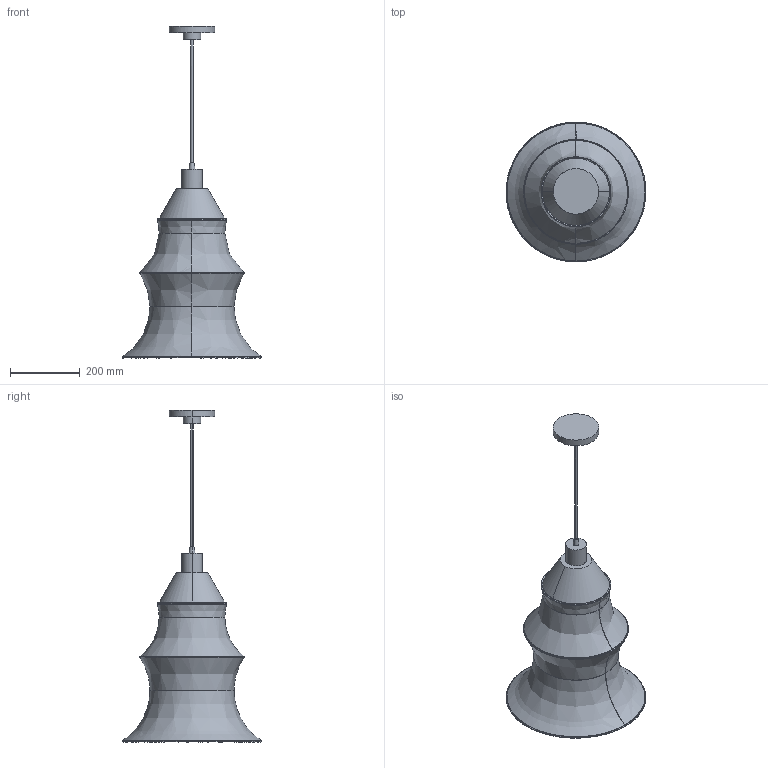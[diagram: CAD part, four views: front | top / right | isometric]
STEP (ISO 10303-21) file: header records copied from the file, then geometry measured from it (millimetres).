
FILE_DESCRIPTION(/* description */ (''),/* implementation_level */ '2;1');
FILE_NAME(/* name */ 'FALKLAND SOSPENSIONE 53',/* time_stamp */ '2017-07-25T16:05:12+02:00',/* author */ (''),/* organization */ (''),/* preprocessor_version */ 'ST-DEVELOPER v10',/* originating_system */ '',/* authorisation */ '');
FILE_SCHEMA (('CONFIG_CONTROL_DESIGN'));
Length unit declared in the file: millimetre
Products named in the file (1): 1
Bounding box: 399.66 x 400 x 949.6 mm (x, y, z)
Volume: 2496281.8 mm3; surface area: 898383.5 mm2
Topology: 7 solids, 19 shells, 75 faces, 206 edges, 139 vertices
Faces by surface type: bspline 64, plane 11
Entity records: 2837 total; most frequent: CARTESIAN_POINT 1786, ORIENTED_EDGE 362, EDGE_CURVE 181, VERTEX_POINT 118, EDGE_LOOP 77, ADVANCED_FACE 75, FACE_OUTER_BOUND 75, B_SPLINE_CURVE_WITH_KNOTS 18
